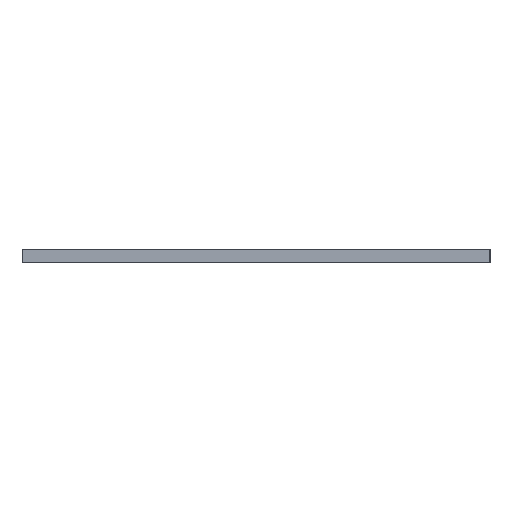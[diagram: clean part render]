
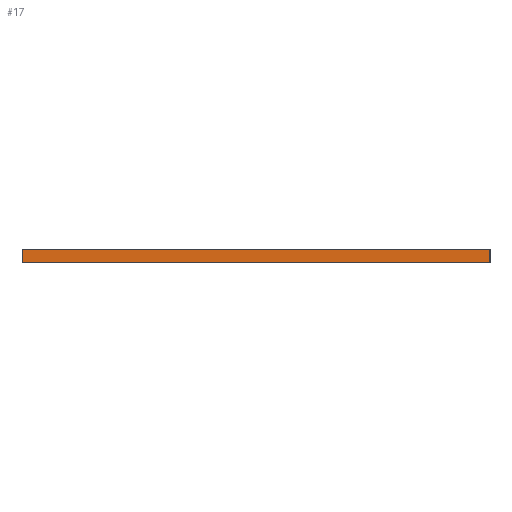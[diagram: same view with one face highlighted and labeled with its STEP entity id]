
A CAD part, left-side view. The second image highlights one B-rep face of the part: STEP entity #17.
In plain terms, the highlighted planar face has unit normal (-1, 0, 0).
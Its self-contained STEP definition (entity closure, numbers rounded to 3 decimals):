
#17 = ADVANCED_FACE('',(#18),#32,.F.);
#18 = FACE_BOUND('',#19,.F.);
#19 = EDGE_LOOP('',(#20,#55,#83,#111));
#20 = ORIENTED_EDGE('',*,*,#21,.F.);
#21 = EDGE_CURVE('',#22,#24,#26,.T.);
#22 = VERTEX_POINT('',#23);
#23 = CARTESIAN_POINT('',(-110.,-45.,-1.25));
#24 = VERTEX_POINT('',#25);
#25 = CARTESIAN_POINT('',(-110.,-45.,1.25));
#26 = SURFACE_CURVE('',#27,(#31,#43),.PCURVE_S1.);
#27 = LINE('',#28,#29);
#28 = CARTESIAN_POINT('',(-110.,-45.,-1.25));
#29 = VECTOR('',#30,1.);
#30 = DIRECTION('',(0.,0.,1.));
#31 = PCURVE('',#32,#37);
#32 = PLANE('',#33);
#33 = AXIS2_PLACEMENT_3D('',#34,#35,#36);
#34 = CARTESIAN_POINT('',(-110.,-45.,-1.25));
#35 = DIRECTION('',(1.,0.,0.));
#36 = DIRECTION('',(0.,0.,1.));
#37 = DEFINITIONAL_REPRESENTATION('',(#38),#42);
#38 = LINE('',#39,#40);
#39 = CARTESIAN_POINT('',(0.,0.));
#40 = VECTOR('',#41,1.);
#41 = DIRECTION('',(1.,0.));
#42 = ( GEOMETRIC_REPRESENTATION_CONTEXT(2) 
PARAMETRIC_REPRESENTATION_CONTEXT() REPRESENTATION_CONTEXT('2D SPACE',''
  ) );
#43 = PCURVE('',#44,#49);
#44 = PLANE('',#45);
#45 = AXIS2_PLACEMENT_3D('',#46,#47,#48);
#46 = CARTESIAN_POINT('',(-110.,-45.,-1.25));
#47 = DIRECTION('',(0.,1.,0.));
#48 = DIRECTION('',(0.,0.,1.));
#49 = DEFINITIONAL_REPRESENTATION('',(#50),#54);
#50 = LINE('',#51,#52);
#51 = CARTESIAN_POINT('',(0.,0.));
#52 = VECTOR('',#53,1.);
#53 = DIRECTION('',(1.,0.));
#54 = ( GEOMETRIC_REPRESENTATION_CONTEXT(2) 
PARAMETRIC_REPRESENTATION_CONTEXT() REPRESENTATION_CONTEXT('2D SPACE',''
  ) );
#55 = ORIENTED_EDGE('',*,*,#56,.T.);
#56 = EDGE_CURVE('',#22,#57,#59,.T.);
#57 = VERTEX_POINT('',#58);
#58 = CARTESIAN_POINT('',(-110.,45.,-1.25));
#59 = SURFACE_CURVE('',#60,(#64,#71),.PCURVE_S1.);
#60 = LINE('',#61,#62);
#61 = CARTESIAN_POINT('',(-110.,-45.,-1.25));
#62 = VECTOR('',#63,1.);
#63 = DIRECTION('',(0.,1.,0.));
#64 = PCURVE('',#32,#65);
#65 = DEFINITIONAL_REPRESENTATION('',(#66),#70);
#66 = LINE('',#67,#68);
#67 = CARTESIAN_POINT('',(0.,0.));
#68 = VECTOR('',#69,1.);
#69 = DIRECTION('',(0.,-1.));
#70 = ( GEOMETRIC_REPRESENTATION_CONTEXT(2) 
PARAMETRIC_REPRESENTATION_CONTEXT() REPRESENTATION_CONTEXT('2D SPACE',''
  ) );
#71 = PCURVE('',#72,#77);
#72 = PLANE('',#73);
#73 = AXIS2_PLACEMENT_3D('',#74,#75,#76);
#74 = CARTESIAN_POINT('',(-110.,-45.,-1.25));
#75 = DIRECTION('',(0.,0.,1.));
#76 = DIRECTION('',(1.,0.,0.));
#77 = DEFINITIONAL_REPRESENTATION('',(#78),#82);
#78 = LINE('',#79,#80);
#79 = CARTESIAN_POINT('',(0.,0.));
#80 = VECTOR('',#81,1.);
#81 = DIRECTION('',(0.,1.));
#82 = ( GEOMETRIC_REPRESENTATION_CONTEXT(2) 
PARAMETRIC_REPRESENTATION_CONTEXT() REPRESENTATION_CONTEXT('2D SPACE',''
  ) );
#83 = ORIENTED_EDGE('',*,*,#84,.T.);
#84 = EDGE_CURVE('',#57,#85,#87,.T.);
#85 = VERTEX_POINT('',#86);
#86 = CARTESIAN_POINT('',(-110.,45.,1.25));
#87 = SURFACE_CURVE('',#88,(#92,#99),.PCURVE_S1.);
#88 = LINE('',#89,#90);
#89 = CARTESIAN_POINT('',(-110.,45.,-1.25));
#90 = VECTOR('',#91,1.);
#91 = DIRECTION('',(0.,0.,1.));
#92 = PCURVE('',#32,#93);
#93 = DEFINITIONAL_REPRESENTATION('',(#94),#98);
#94 = LINE('',#95,#96);
#95 = CARTESIAN_POINT('',(0.,-90.));
#96 = VECTOR('',#97,1.);
#97 = DIRECTION('',(1.,0.));
#98 = ( GEOMETRIC_REPRESENTATION_CONTEXT(2) 
PARAMETRIC_REPRESENTATION_CONTEXT() REPRESENTATION_CONTEXT('2D SPACE',''
  ) );
#99 = PCURVE('',#100,#105);
#100 = PLANE('',#101);
#101 = AXIS2_PLACEMENT_3D('',#102,#103,#104);
#102 = CARTESIAN_POINT('',(-110.,45.,-1.25));
#103 = DIRECTION('',(0.,1.,0.));
#104 = DIRECTION('',(0.,0.,1.));
#105 = DEFINITIONAL_REPRESENTATION('',(#106),#110);
#106 = LINE('',#107,#108);
#107 = CARTESIAN_POINT('',(0.,0.));
#108 = VECTOR('',#109,1.);
#109 = DIRECTION('',(1.,0.));
#110 = ( GEOMETRIC_REPRESENTATION_CONTEXT(2) 
PARAMETRIC_REPRESENTATION_CONTEXT() REPRESENTATION_CONTEXT('2D SPACE',''
  ) );
#111 = ORIENTED_EDGE('',*,*,#112,.F.);
#112 = EDGE_CURVE('',#24,#85,#113,.T.);
#113 = SURFACE_CURVE('',#114,(#118,#125),.PCURVE_S1.);
#114 = LINE('',#115,#116);
#115 = CARTESIAN_POINT('',(-110.,-45.,1.25));
#116 = VECTOR('',#117,1.);
#117 = DIRECTION('',(0.,1.,0.));
#118 = PCURVE('',#32,#119);
#119 = DEFINITIONAL_REPRESENTATION('',(#120),#124);
#120 = LINE('',#121,#122);
#121 = CARTESIAN_POINT('',(2.5,0.));
#122 = VECTOR('',#123,1.);
#123 = DIRECTION('',(0.,-1.));
#124 = ( GEOMETRIC_REPRESENTATION_CONTEXT(2) 
PARAMETRIC_REPRESENTATION_CONTEXT() REPRESENTATION_CONTEXT('2D SPACE',''
  ) );
#125 = PCURVE('',#126,#131);
#126 = PLANE('',#127);
#127 = AXIS2_PLACEMENT_3D('',#128,#129,#130);
#128 = CARTESIAN_POINT('',(-110.,-45.,1.25));
#129 = DIRECTION('',(0.,0.,1.));
#130 = DIRECTION('',(1.,0.,0.));
#131 = DEFINITIONAL_REPRESENTATION('',(#132),#136);
#132 = LINE('',#133,#134);
#133 = CARTESIAN_POINT('',(0.,0.));
#134 = VECTOR('',#135,1.);
#135 = DIRECTION('',(0.,1.));
#136 = ( GEOMETRIC_REPRESENTATION_CONTEXT(2) 
PARAMETRIC_REPRESENTATION_CONTEXT() REPRESENTATION_CONTEXT('2D SPACE',''
  ) );
